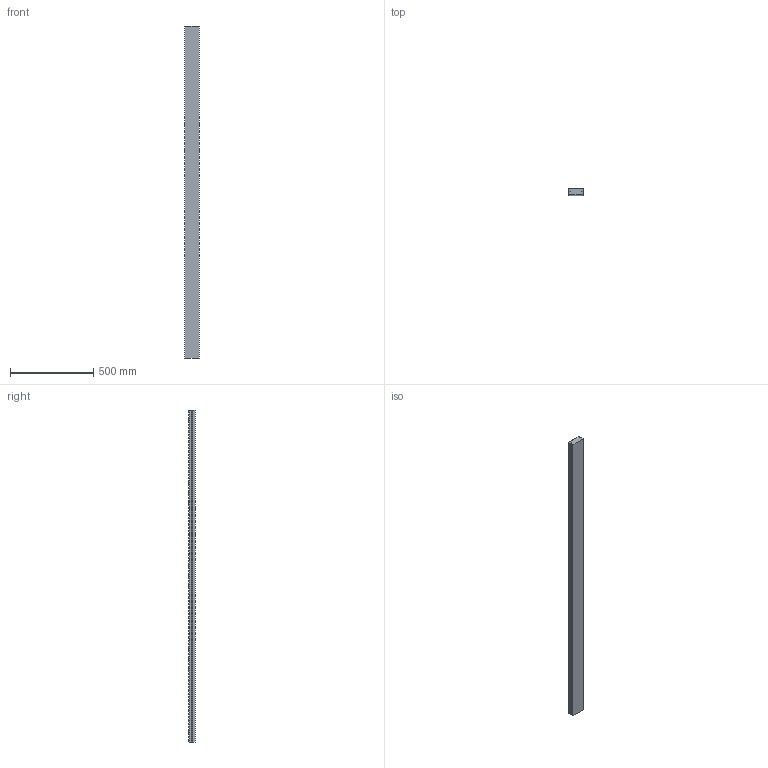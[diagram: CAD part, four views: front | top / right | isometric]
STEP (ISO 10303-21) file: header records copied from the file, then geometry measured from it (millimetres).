
FILE_DESCRIPTION (( 'STEP AP214' ), '1' );
FILE_NAME ('JB-58020.step', '2023-12-26T01:21:29', ( 'catia' ), ( 'HP Inc.' ), 'SwSTEP 2.0', 'SolidWorks 2021', '' );
FILE_SCHEMA (( 'AUTOMOTIVE_DESIGN' ));
Length unit declared in the file: millimetre
Products named in the file (1): JB-58020
Bounding box: 88 x 39 x 2000 mm (x, y, z)
Volume: 6394778.2 mm3; surface area: 564581.3 mm2
Topology: 1 solids, 1 shells, 312 faces, 630 edges, 420 vertices
Faces by surface type: plane 212, cylinder 100
Entity records: 8188 total; most frequent: DIRECTION 1456, CARTESIAN_POINT 1363, ORIENTED_EDGE 1260, EDGE_CURVE 630, AXIS2_PLACEMENT_3D 513, LINE 430, VECTOR 430, VERTEX_POINT 420
